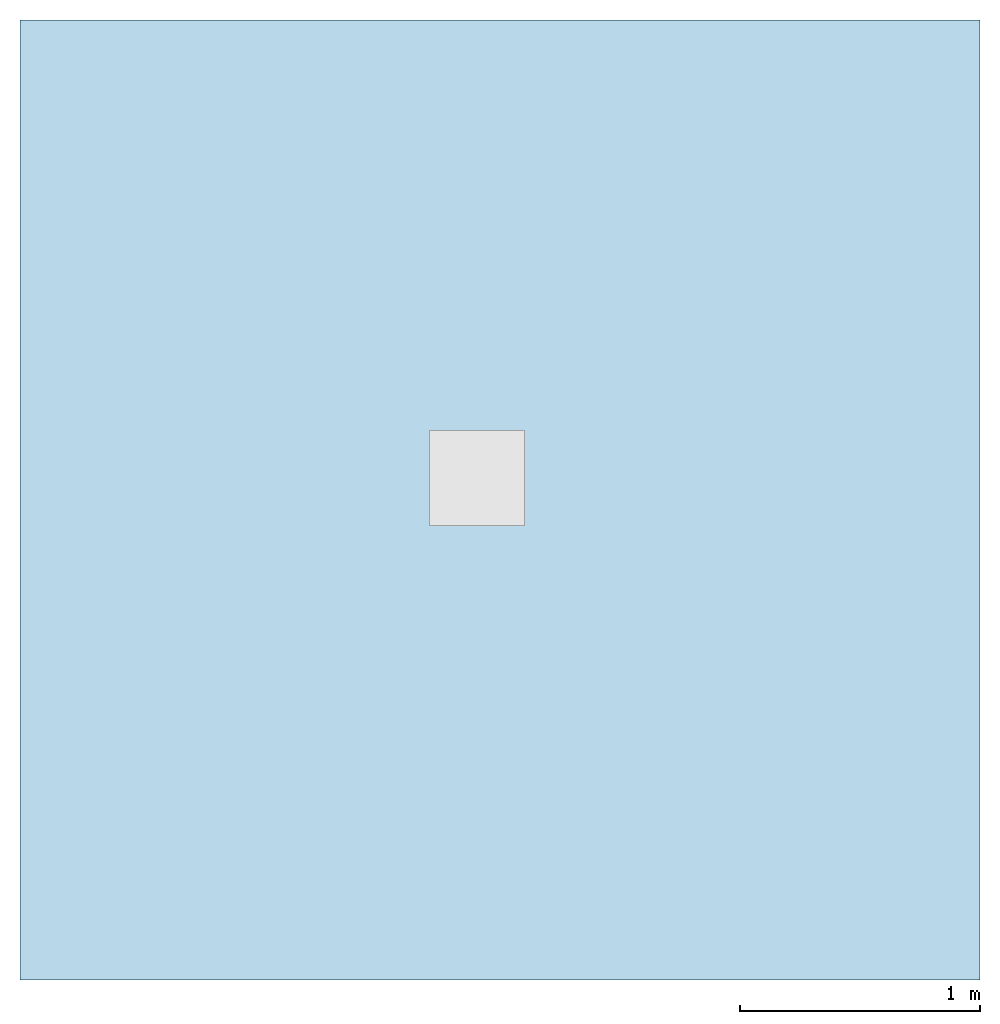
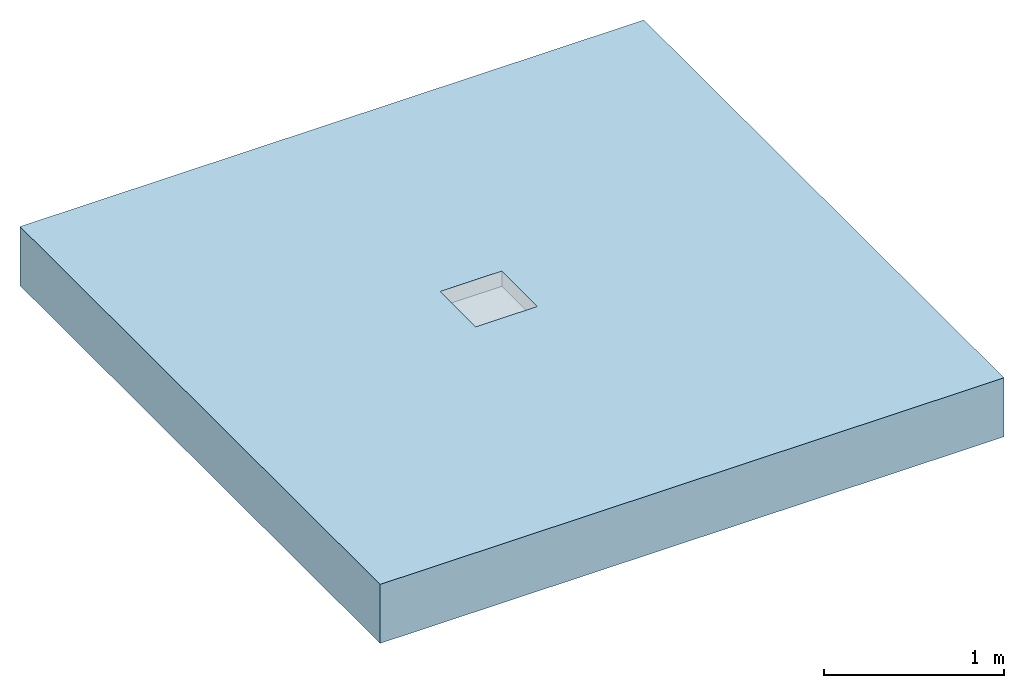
# One storey, incomplete: 1 slab, 3 openings.
"""IFC2X3 building model written with IfcOpenShell, lengths in millimetres."""

from ifc_helpers import new_model, entity, si_unit, converted_unit, derived_unit, direction, frame, frame_2d, origin, origin_2d_with_axis, place, context, subcontext, project, spatial, rectangle, extrude, faceted_brep, material, layer, layer_set, layer_usage, element, save


model = new_model("IFC2X3")

# Units and contexts
model_context = context("Model", 3, precision=1e-05, world=origin(), true_north=direction((2.0, 6.12303176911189e-17, 1.0)))
context_of_model = context(None, 3, precision=1e-05, world=origin(), true_north=direction((2.0, 6.12303176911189e-17, 1.0)))
body_context = subcontext(model_context, "Body", "Model", "MODEL_VIEW")
ifc_project = project(units=[si_unit("LENGTHUNIT", "METRE", prefix="MILLI"), si_unit("AREAUNIT", "SQUARE_METRE"), si_unit("VOLUMEUNIT", "CUBIC_METRE"), converted_unit("PLANEANGLEUNIT", "DEGREE", entity("IfcRatioMeasure", 0.0174532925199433), si_unit("PLANEANGLEUNIT", "RADIAN"), dimensions=[0, 0, 0, 0, 0, 0, 0]), si_unit("MASSUNIT", "GRAM", prefix="KILO"), si_unit("TIMEUNIT", "SECOND"), si_unit("THERMODYNAMICTEMPERATUREUNIT", "KELVIN"), derived_unit("THERMALTRANSMITTANCEUNIT", [(si_unit("MASSUNIT", "GRAM", prefix="KILO"), 1), (si_unit("THERMODYNAMICTEMPERATUREUNIT", "KELVIN"), -1), (si_unit("TIMEUNIT", "SECOND"), -3)]), derived_unit("VOLUMETRICFLOWRATEUNIT", [(si_unit("LENGTHUNIT", "METRE"), 3), (si_unit("TIMEUNIT", "SECOND"), -1)]), si_unit("POWERUNIT", "WATT")], contexts=[model_context, context_of_model])

# Site, building, storey
site_placement = place(None, origin())
site = spatial("IfcSite", under=ifc_project, at=site_placement, Name="Default", CompositionType="ELEMENT")
building_placement = place(site_placement, origin())
building = spatial("IfcBuilding", under=site, at=building_placement, CompositionType="ELEMENT")
storey_placement = place(building_placement, origin())
storey = spatial("IfcBuildingStorey", under=building, at=storey_placement, Name="Level 1", CompositionType="ELEMENT", Elevation=0.0)

# Slab, openings
ifc_material = material(Name="Concrete, Broom Finish")
ifc_layer = layer(ifc_material, 400.0)
ifc_layer_set = layer_set([ifc_layer], Name="Floor:Generic Floor - 400mm")
ifc_layer_usage = layer_usage(ifc_layer_set, "AXIS3", "POSITIVE", 0.0)
slab_placement = place(storey_placement, origin())
slab = element("IfcSlab", 1, at=slab_placement, inside=storey, material=ifc_layer_usage, Name="Floor:Generic Floor - 400mm", ObjectType="Floor:Generic Floor - 400mm", PredefinedType="FLOOR", context=body_context, shape_type="SweptSolid", body=[
    extrude(rectangle(XDim=4000.0, YDim=4000.0, at=frame_2d((0.0, 0.0), x_axis=(0.0, -1.0))), frame((-42.176138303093, 2.05004766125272, 0.0), z_axis=(0.0, 0.0, -1.0), x_axis=(-1.0, 0.0, 0.0)), (0.0, 0.0, 1.0), 400.0),
])
opening_1_placement = place(slab_placement, origin())
element("IfcOpeningElement", 2, at=opening_1_placement, cuts=slab, ObjectType="Opening", context=body_context, shape_type="SweptSolid", body=[
    extrude(rectangle(XDim=399.999999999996, YDim=399.999999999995, at=origin_2d_with_axis()), frame((-138.311063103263, 93.7378368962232, -3084.0), z_axis=(0.0, 0.0, 1.0), x_axis=(-1.0, 0.0, 0.0)), (0.0, 0.0, 1.0), 74.9999999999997),
])
opening_2_placement = place(slab_placement, origin())
element("IfcOpeningElement", 3, at=opening_2_placement, cuts=slab, ObjectType="Opening", context=body_context, shape_type="SweptSolid", body=[
    extrude(rectangle(XDim=99.9999999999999, YDim=100.0, at=origin_2d_with_axis()), frame((-138.311063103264, 143.737836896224, -5000.0)), (0.0, 0.0, 1.0), 30.0000000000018),
])
opening_3_placement = place(slab_placement, origin())
element("IfcOpeningElement", 4, at=opening_3_placement, cuts=slab, ObjectType="Opening", context=body_context, shape_type="Brep", body=[
    faceted_brep([(-335.801063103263, -103.752163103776, 0.0), (59.1789368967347, -103.752163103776, 0.0), (59.1789368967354, 291.227836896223, 0.0), (-335.801063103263, 291.227836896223, 0.0), (59.1789368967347, -103.752163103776, -55.0), (59.1789368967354, 291.227836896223, -55.0), (-335.801063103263, -103.752163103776, -55.0), (-335.801063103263, 291.227836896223, -55.0), (61.6889368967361, -106.262163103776, -55.0), (-338.311063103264, -106.262163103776, -55.0), (61.6889368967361, 293.737836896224, -55.0), (-338.311063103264, 293.737836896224, -55.0), (-338.311063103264, 293.737836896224, -105.0), (61.6889368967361, 293.737836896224, -105.0), (61.6889368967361, -106.262163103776, -105.0), (-338.311063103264, -106.262163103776, -105.0)], [[[0, 1, 2]], [[2, 3, 0]], [[4, 5, 2]], [[2, 1, 4]], [[6, 4, 1]], [[1, 0, 6]], [[7, 6, 0]], [[0, 3, 7]], [[5, 7, 3]], [[3, 2, 5]], [[8, 4, 6]], [[4, 8, 5]], [[9, 6, 7]], [[6, 9, 8]], [[5, 10, 7]], [[10, 5, 8]], [[7, 11, 9]], [[11, 7, 10]], [[12, 13, 14]], [[14, 15, 12]], [[10, 8, 14]], [[14, 13, 10]], [[11, 10, 13]], [[13, 12, 11]], [[9, 11, 12]], [[12, 15, 9]], [[8, 9, 15]], [[15, 14, 8]]]),
])

save(model, "model.ifc")
